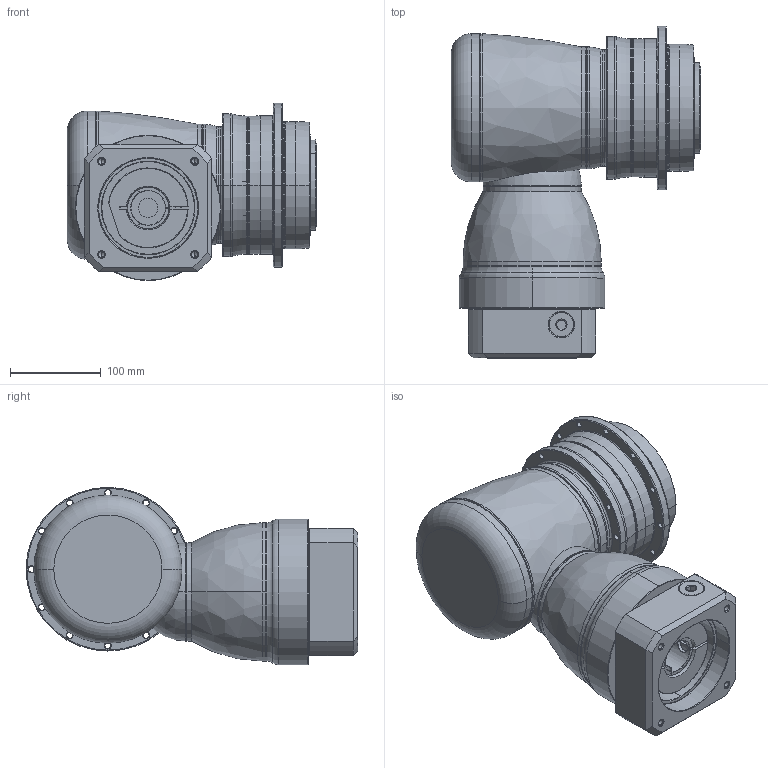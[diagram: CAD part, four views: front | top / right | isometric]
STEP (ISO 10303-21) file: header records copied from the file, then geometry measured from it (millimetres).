
FILE_DESCRIPTION((''),'2;1');
FILE_NAME('AHK140_2ST_38-P0409900101_ASM','2016-10-12T',('d01943'),(''),'PRO/ENGINEER BY PARAMETRIC TECHNOLOGY CORPORATION, 2008410','PRO/ENGINEER BY PARAMETRIC TECHNOLOGY CORPORATION, 2008410','');
FILE_SCHEMA(('CONFIG_CONTROL_DESIGN'));
Length unit declared in the file: millimetre
Products named in the file (12): P1008500002; P1802500011; P0278500003; P0359500002; P1315500001; P1007500001; P1318500401; P0503900012; P0912504201; P0409900101; 21711422019; AHK140_2ST_38-P0409900101_ASM
Assembly tree (11 placements, depth 2):
  AHK140_2ST_38-P0409900101_ASM
    P1008500002
    P1802500011
    P0278500003
    P0359500002
    P1315500001
    P1007500001
    P1318500401
    P0503900012
    P0912504201
    P0409900101
    21711422019
Bounding box: 274.5 x 365 x 195 mm (x, y, z)
Volume: 5724676.8 mm3; surface area: 693265.9 mm2
Topology: 12 solids, 12 shells, 851 faces, 1895 edges, 1097 vertices
Faces by surface type: cylinder 305, cone 272, plane 125, torus 122, bspline 25, sphere 2
Entity records: 28439 total; most frequent: CARTESIAN_POINT 9056, DIRECTION 4469, ORIENTED_EDGE 3666, AXIS2_PLACEMENT_3D 1911, EDGE_CURVE 1833, VERTEX_POINT 1097, CIRCLE 1062, EDGE_LOOP 1004
